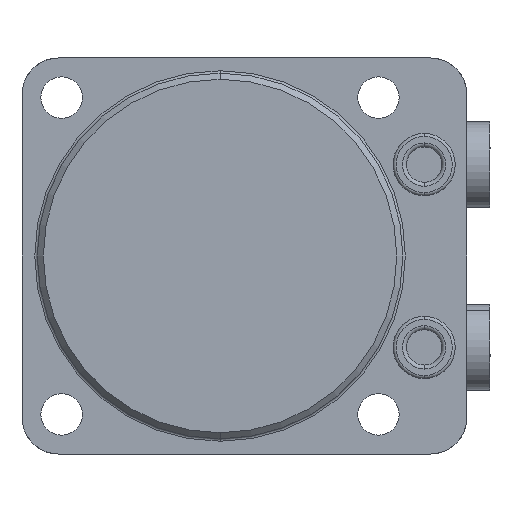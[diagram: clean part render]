
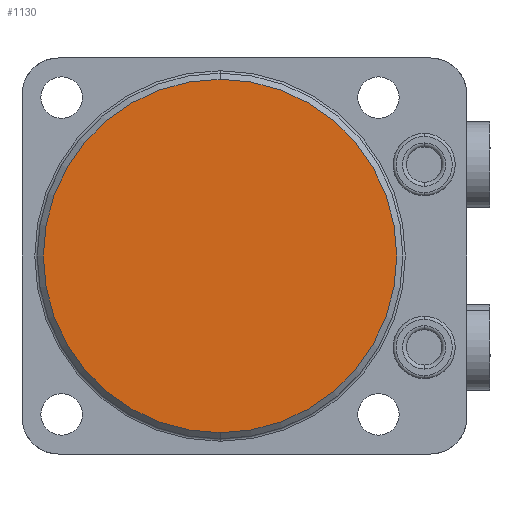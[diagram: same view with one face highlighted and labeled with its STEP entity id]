
A CAD part, front view. The second image highlights one B-rep face of the part: STEP entity #1130.
In plain terms, the highlighted planar face has unit normal (0, -1, 0).
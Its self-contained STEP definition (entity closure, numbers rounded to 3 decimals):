
#607=PLANE('',#3370);
#1130=ADVANCED_FACE('',(#1332),#607,.F.);
#1332=FACE_OUTER_BOUND('',#1500,.T.);
#1500=EDGE_LOOP('',(#1843,#1844));
#1843=ORIENTED_EDGE('',*,*,#2806,.T.);
#1844=ORIENTED_EDGE('',*,*,#2768,.T.);
#2519=VERTEX_POINT('',#4914);
#2520=VERTEX_POINT('',#4915);
#2768=EDGE_CURVE('',#2519,#2520,#3091,.T.);
#2806=EDGE_CURVE('',#2520,#2519,#3110,.T.);
#3091=CIRCLE('',#3341,29.);
#3110=CIRCLE('',#3369,29.);
#3341=AXIS2_PLACEMENT_3D('',#4913,#3882,#3883);
#3369=AXIS2_PLACEMENT_3D('',#4986,#3954,#3955);
#3370=AXIS2_PLACEMENT_3D('',#4987,#3956,#3957);
#3882=DIRECTION('',(0.,-1.,0.));
#3883=DIRECTION('',(0.,0.,1.));
#3954=DIRECTION('',(0.,-1.,0.));
#3955=DIRECTION('',(0.,0.,1.));
#3956=DIRECTION('',(0.,1.,0.));
#3957=DIRECTION('',(0.,0.,-1.));
#4913=CARTESIAN_POINT('',(0.,-47.,0.));
#4914=CARTESIAN_POINT('',(0.,-47.,-29.));
#4915=CARTESIAN_POINT('',(0.,-47.,29.));
#4986=CARTESIAN_POINT('',(0.,-47.,0.));
#4987=CARTESIAN_POINT('',(0.,-47.,0.));
